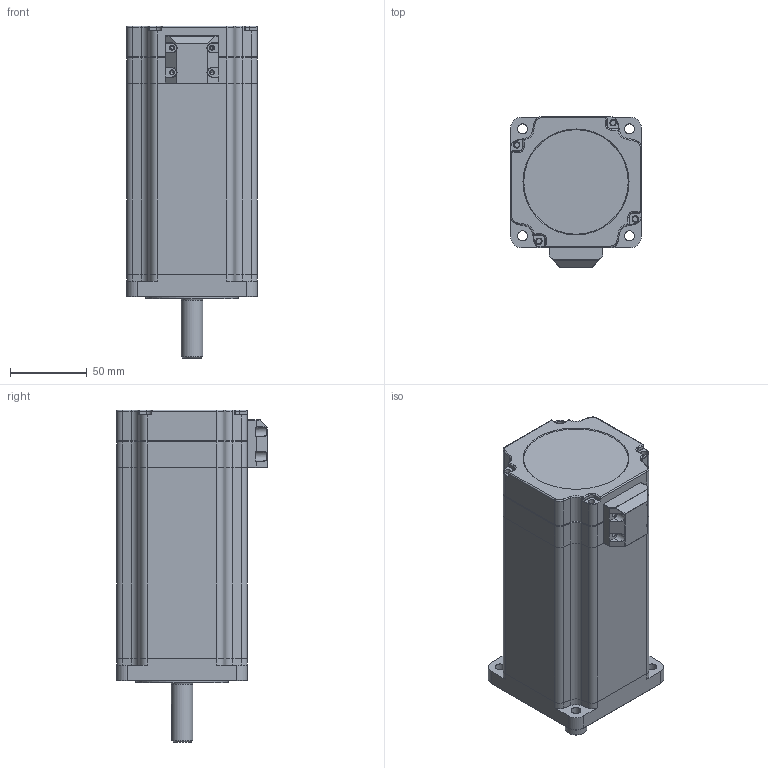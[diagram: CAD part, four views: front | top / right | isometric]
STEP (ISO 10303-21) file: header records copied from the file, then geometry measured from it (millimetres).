
FILE_DESCRIPTION (( 'STEP AP203' ), '1' );
FILE_NAME ('YK385EC156A1.STEP', '2018-11-05T05:35:56', ( '' ), ( '' ), 'SwSTEP 2.0', 'SolidWorks 2014', '' );
FILE_SCHEMA (( 'CONFIG_CONTROL_DESIGN' ));
Length unit declared in the file: millimetre
Products named in the file (18): YK385ECXXA1萇擢揤啣; 敕遠M4.0蹟佪; YK385ECXXA1ヶ裔; YK385ECXXA1綴裔; YK385ECXXA1綴欶; YK385ECXXA1隅赽; YK385ECXXA1粣郋; YK385EC156A1
Assembly tree (10 placements, depth 2):
  敕遠M4.0蹟佪
  敕遠M4.0蹟佪
  YK385ECXXA1ヶ裔
  YK385ECXXA1綴欶
  敕遠M4.0蹟佪
Bounding box: 85 x 98 x 216 mm (x, y, z)
Volume: 754431.6 mm3; surface area: 157096.1 mm2
Topology: 10 solids, 10 shells, 615 faces, 1471 edges, 874 vertices
Faces by surface type: plane 281, cylinder 222, torus 46, bspline 28, cone 20, sphere 18
Full cylindrical faces by diameter (mm): 2.5 x4, 3.2 x4, 3.3 x8, 4 x4, 4.2 x4, 4.5 x8, 6.5 x4, 6.9 x4, 7 x4, 14 x1, 15 x1, 16 x2, 32 x1, 35 x1, 55.96 x1, 60 x1, 70 x1
Entity records: 17261 total; most frequent: CARTESIAN_POINT 3418, DIRECTION 2637, ORIENTED_EDGE 2418, EDGE_CURVE 1209, AXIS2_PLACEMENT_3D 1002, VERTEX_POINT 775, EDGE_LOOP 668, VECTOR 633
